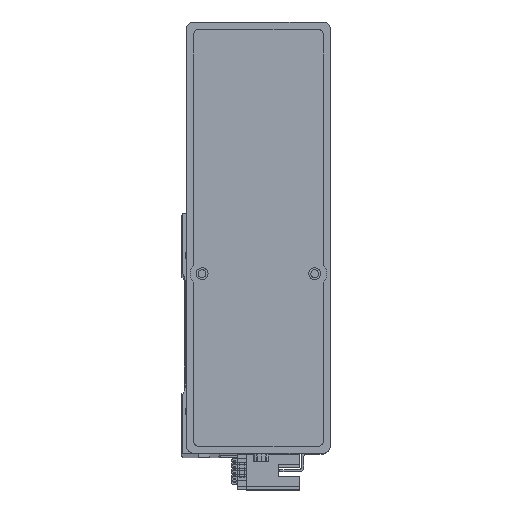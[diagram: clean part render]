
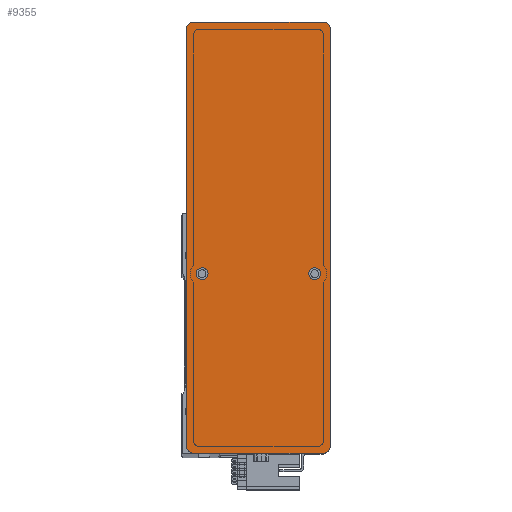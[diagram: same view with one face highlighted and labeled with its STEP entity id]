
A CAD part, top view. The second image highlights one B-rep face of the part: STEP entity #9355.
In plain terms, the highlighted planar face has unit normal (0, 0, 1) as drawn and (0, 0, -1) by its records, which use the part's own axes.
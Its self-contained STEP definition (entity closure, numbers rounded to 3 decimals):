
#459 = CIRCLE ( 'NONE', #16247, 2.5 ) ;
#646 = LINE ( 'NONE', #4243, #38307 ) ;
#975 = DIRECTION ( 'NONE',  ( 1., 0., 0. ) ) ;
#1045 = DIRECTION ( 'NONE',  ( 1., 0., 0. ) ) ;
#1935 = AXIS2_PLACEMENT_3D ( 'NONE', #33449, #26319, #4423 ) ;
#2132 = CARTESIAN_POINT ( 'NONE',  ( 90., 30., 0. ) ) ;
#3537 = CIRCLE ( 'NONE', #45164, 3. ) ;
#4126 = VERTEX_POINT ( 'NONE', #9302 ) ;
#4243 = CARTESIAN_POINT ( 'NONE',  ( 90., -30., 0. ) ) ;
#4314 = CARTESIAN_POINT ( 'NONE',  ( -15., 23.5, 0. ) ) ;
#4423 = DIRECTION ( 'NONE',  ( 1., 0., 0. ) ) ;
#4596 = ORIENTED_EDGE ( 'NONE', *, *, #27949, .F. ) ;
#4744 = CARTESIAN_POINT ( 'NONE',  ( 87., 27., 0. ) ) ;
#4872 = DIRECTION ( 'NONE',  ( 0., 0., -1. ) ) ;
#4936 = CARTESIAN_POINT ( 'NONE',  ( -90., -30., 0. ) ) ;
#5955 = AXIS2_PLACEMENT_3D ( 'NONE', #44680, #22840, #975 ) ;
#6136 = VECTOR ( 'NONE', #37426, 1000. ) ;
#6217 = ORIENTED_EDGE ( 'NONE', *, *, #42954, .F. ) ;
#6436 = VERTEX_POINT ( 'NONE', #9939 ) ;
#6839 = CIRCLE ( 'NONE', #44768, 3. ) ;
#7257 = ORIENTED_EDGE ( 'NONE', *, *, #10279, .T. ) ;
#7444 = DIRECTION ( 'NONE',  ( 0., 0., -1. ) ) ;
#8017 = DIRECTION ( 'NONE',  ( -1., 0., 0. ) ) ;
#8439 = DIRECTION ( 'NONE',  ( 1., 0., 0. ) ) ;
#8983 = ORIENTED_EDGE ( 'NONE', *, *, #42879, .F. ) ;
#9302 = CARTESIAN_POINT ( 'NONE',  ( 87., 30., 0. ) ) ;
#9355 = ADVANCED_FACE ( 'NONE', ( #28158, #29288, #37802 ), #22633, .F. ) ;
#9939 = CARTESIAN_POINT ( 'NONE',  ( 87., -30., 0. ) ) ;
#10279 = EDGE_CURVE ( 'NONE', #4126, #18519, #6839, .T. ) ;
#10321 = AXIS2_PLACEMENT_3D ( 'NONE', #29325, #7444, #32936 ) ;
#10398 = CARTESIAN_POINT ( 'NONE',  ( 90., 27., 0. ) ) ;
#11877 = CARTESIAN_POINT ( 'NONE',  ( 90., -30., 0. ) ) ;
#11890 = CARTESIAN_POINT ( 'NONE',  ( -15., -23.5, 0. ) ) ;
#13251 = AXIS2_PLACEMENT_3D ( 'NONE', #15604, #41127, #19298 ) ;
#13514 = EDGE_LOOP ( 'NONE', ( #22076, #20660, #22306, #23426, #17389, #28187, #4596, #7257 ) ) ;
#13917 = LINE ( 'NONE', #4936, #15054 ) ;
#14460 = CARTESIAN_POINT ( 'NONE',  ( -87., 30., 0. ) ) ;
#15054 = VECTOR ( 'NONE', #37662, 1000. ) ;
#15168 = LINE ( 'NONE', #2132, #40848 ) ;
#15458 = CARTESIAN_POINT ( 'NONE',  ( -17.5, 23.5, 0. ) ) ;
#15546 = DIRECTION ( 'NONE',  ( -1., 0., 0. ) ) ;
#15604 = CARTESIAN_POINT ( 'NONE',  ( -15., -23.5, 0. ) ) ;
#16247 = AXIS2_PLACEMENT_3D ( 'NONE', #11890, #37440, #15546 ) ;
#17389 = ORIENTED_EDGE ( 'NONE', *, *, #43012, .F. ) ;
#18144 = VERTEX_POINT ( 'NONE', #42363 ) ;
#18519 = VERTEX_POINT ( 'NONE', #10398 ) ;
#18553 = CARTESIAN_POINT ( 'NONE',  ( -12.5, 23.5, 0. ) ) ;
#18750 = EDGE_LOOP ( 'NONE', ( #8983, #38983 ) ) ;
#18942 = CARTESIAN_POINT ( 'NONE',  ( -12.5, -23.5, 0. ) ) ;
#19080 = VERTEX_POINT ( 'NONE', #36209 ) ;
#19204 = EDGE_CURVE ( 'NONE', #47219, #6436, #646, .T. ) ;
#19298 = DIRECTION ( 'NONE',  ( -1., 0., 0. ) ) ;
#20660 = ORIENTED_EDGE ( 'NONE', *, *, #38120, .T. ) ;
#22076 = ORIENTED_EDGE ( 'NONE', *, *, #40073, .F. ) ;
#22306 = ORIENTED_EDGE ( 'NONE', *, *, #19204, .F. ) ;
#22633 = PLANE ( 'NONE',  #1935 ) ;
#22840 = DIRECTION ( 'NONE',  ( 0., 0., -1. ) ) ;
#22897 = DIRECTION ( 'NONE',  ( 0., 0., -1. ) ) ;
#23294 = EDGE_CURVE ( 'NONE', #47219, #19080, #31072, .T. ) ;
#23426 = ORIENTED_EDGE ( 'NONE', *, *, #23294, .T. ) ;
#23995 = DIRECTION ( 'NONE',  ( -1., 0., 0. ) ) ;
#24311 = VERTEX_POINT ( 'NONE', #14460 ) ;
#24814 = CIRCLE ( 'NONE', #13251, 2.5 ) ;
#25423 = VERTEX_POINT ( 'NONE', #36557 ) ;
#26222 = ORIENTED_EDGE ( 'NONE', *, *, #41856, .F. ) ;
#26319 = DIRECTION ( 'NONE',  ( 0., 0., 1. ) ) ;
#26785 = CARTESIAN_POINT ( 'NONE',  ( -15., 23.5, 0. ) ) ;
#27638 = VERTEX_POINT ( 'NONE', #18553 ) ;
#27949 = EDGE_CURVE ( 'NONE', #4126, #24311, #15168, .T. ) ;
#28158 = FACE_BOUND ( 'NONE', #18750, .T. ) ;
#28187 = ORIENTED_EDGE ( 'NONE', *, *, #42916, .T. ) ;
#29288 = FACE_BOUND ( 'NONE', #41029, .T. ) ;
#29325 = CARTESIAN_POINT ( 'NONE',  ( -87., -27., 0. ) ) ;
#29806 = DIRECTION ( 'NONE',  ( 1., 0., 0. ) ) ;
#29860 = DIRECTION ( 'NONE',  ( 0., 0., -1. ) ) ;
#30292 = DIRECTION ( 'NONE',  ( 0., 0., -1. ) ) ;
#30420 = DIRECTION ( 'NONE',  ( -1., 0., 0. ) ) ;
#30516 = CIRCLE ( 'NONE', #38648, 2.5 ) ;
#30973 = AXIS2_PLACEMENT_3D ( 'NONE', #26785, #4872, #30420 ) ;
#31072 = CIRCLE ( 'NONE', #10321, 3. ) ;
#32392 = VERTEX_POINT ( 'NONE', #15458 ) ;
#32936 = DIRECTION ( 'NONE',  ( 1., 0., 0. ) ) ;
#33449 = CARTESIAN_POINT ( 'NONE',  ( 0., 0., 0. ) ) ;
#34665 = CIRCLE ( 'NONE', #30973, 2.5 ) ;
#36209 = CARTESIAN_POINT ( 'NONE',  ( -90., -27., 0. ) ) ;
#36557 = CARTESIAN_POINT ( 'NONE',  ( -90., 27., 0. ) ) ;
#36701 = CARTESIAN_POINT ( 'NONE',  ( 90., -27., 0. ) ) ;
#37426 = DIRECTION ( 'NONE',  ( 0., 1., 0. ) ) ;
#37440 = DIRECTION ( 'NONE',  ( 0., 0., -1. ) ) ;
#37498 = VERTEX_POINT ( 'NONE', #18942 ) ;
#37662 = DIRECTION ( 'NONE',  ( 0., -1., 0. ) ) ;
#37802 = FACE_OUTER_BOUND ( 'NONE', #13514, .T. ) ;
#38120 = EDGE_CURVE ( 'NONE', #45008, #6436, #3537, .T. ) ;
#38307 = VECTOR ( 'NONE', #29806, 1000. ) ;
#38648 = AXIS2_PLACEMENT_3D ( 'NONE', #4314, #29860, #8017 ) ;
#38983 = ORIENTED_EDGE ( 'NONE', *, *, #41904, .F. ) ;
#40073 = EDGE_CURVE ( 'NONE', #45008, #18519, #44951, .T. ) ;
#40848 = VECTOR ( 'NONE', #23995, 1000. ) ;
#41029 = EDGE_LOOP ( 'NONE', ( #6217, #26222 ) ) ;
#41127 = DIRECTION ( 'NONE',  ( 0., 0., -1. ) ) ;
#41856 = EDGE_CURVE ( 'NONE', #37498, #18144, #459, .T. ) ;
#41904 = EDGE_CURVE ( 'NONE', #27638, #32392, #34665, .T. ) ;
#42363 = CARTESIAN_POINT ( 'NONE',  ( -17.5, -23.5, 0. ) ) ;
#42879 = EDGE_CURVE ( 'NONE', #32392, #27638, #30516, .T. ) ;
#42916 = EDGE_CURVE ( 'NONE', #25423, #24311, #45363, .T. ) ;
#42954 = EDGE_CURVE ( 'NONE', #18144, #37498, #24814, .T. ) ;
#43012 = EDGE_CURVE ( 'NONE', #25423, #19080, #13917, .T. ) ;
#44464 = CARTESIAN_POINT ( 'NONE',  ( -87., -30., 0. ) ) ;
#44680 = CARTESIAN_POINT ( 'NONE',  ( -87., 27., 0. ) ) ;
#44748 = CARTESIAN_POINT ( 'NONE',  ( 87., -27., 0. ) ) ;
#44768 = AXIS2_PLACEMENT_3D ( 'NONE', #4744, #30292, #8439 ) ;
#44951 = LINE ( 'NONE', #11877, #6136 ) ;
#45008 = VERTEX_POINT ( 'NONE', #36701 ) ;
#45164 = AXIS2_PLACEMENT_3D ( 'NONE', #44748, #22897, #1045 ) ;
#45363 = CIRCLE ( 'NONE', #5955, 3. ) ;
#47219 = VERTEX_POINT ( 'NONE', #44464 ) ;
